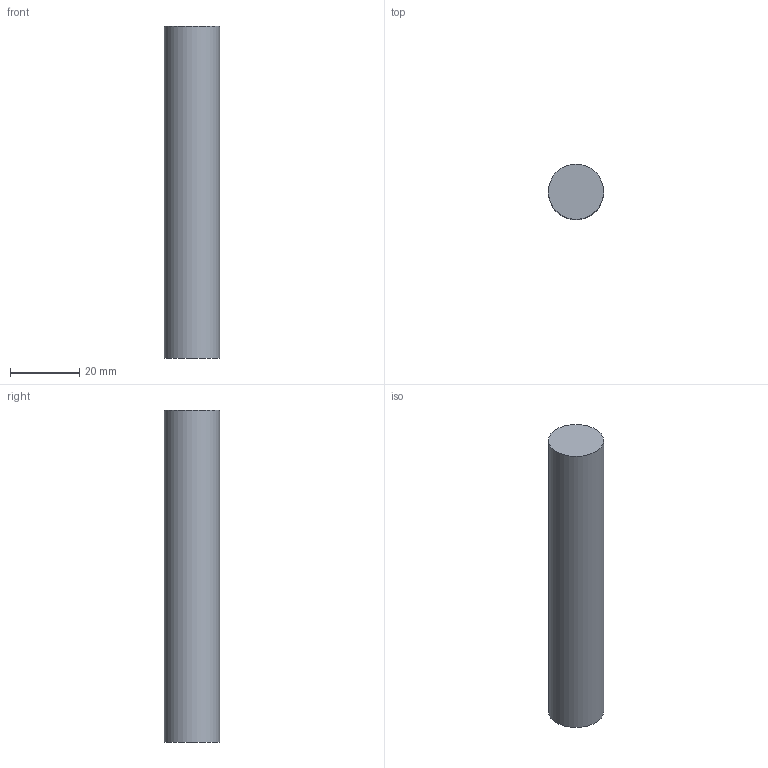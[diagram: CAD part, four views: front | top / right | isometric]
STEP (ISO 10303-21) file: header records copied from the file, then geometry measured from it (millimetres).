
FILE_DESCRIPTION(('Open CASCADE Model'),'2;1');
FILE_NAME('Open CASCADE Shape Model','2026-10-04T02:31:35',('Author'),( 'Open CASCADE'),'Open CASCADE STEP processor 8.0','Open CASCADE 8.0' ,'Unknown');
FILE_SCHEMA(('AUTOMOTIVE_DESIGN { 1 0 10303 214 1 1 1 1 }'));
Length unit declared in the file: millimetre
Products named in the file (1): Open CASCADE STEP translator 8.0 66
Bounding box: 16 x 16 x 96 mm (x, y, z)
Volume: 19301.9 mm3; surface area: 5227.6 mm2
Topology: 1 solids, 1 shells, 3 faces, 3 edges, 2 vertices
Faces by surface type: plane 2, cylinder 1
Full cylindrical faces by diameter (mm): 16 x1
Entity records: 108 total; most frequent: DIRECTION 19, CARTESIAN_POINT 15, AXIS2_PLACEMENT_3D 6, ORIENTED_EDGE 6, PCURVE 6, DEFINITIONAL_REPRESENTATION 6, LINE 5, VECTOR 5
